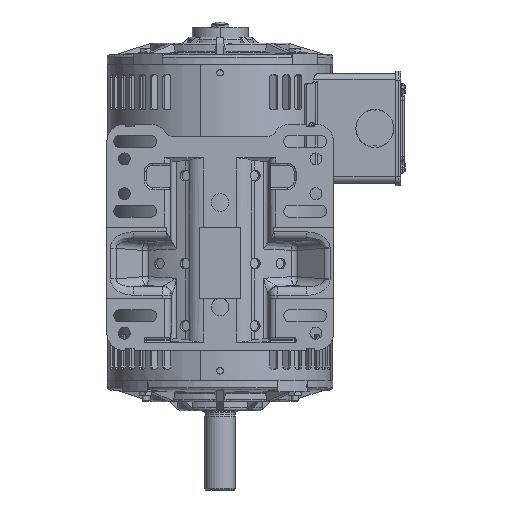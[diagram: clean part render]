
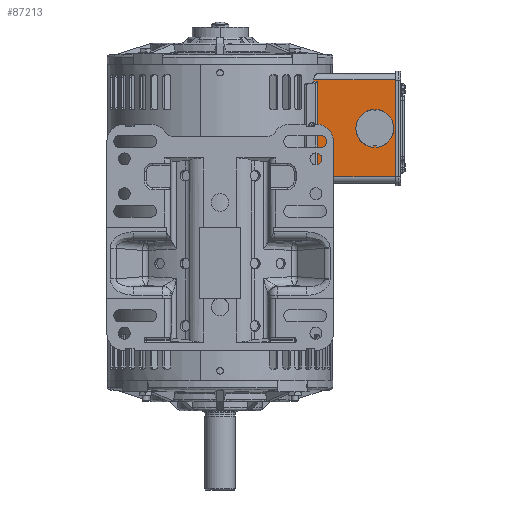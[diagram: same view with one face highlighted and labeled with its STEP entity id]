
A CAD part, front view. The second image highlights one B-rep face of the part: STEP entity #87213.
In plain terms, the highlighted planar face has unit normal (0, -1, 0).
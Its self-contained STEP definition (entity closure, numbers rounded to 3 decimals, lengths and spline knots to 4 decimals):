
#573 = DIRECTION ( 'NONE',  ( -1., 0., 0. ) ) ;
#6473 = DIRECTION ( 'NONE',  ( 1., 0., 0. ) ) ;
#7174 = DIRECTION ( 'NONE',  ( -1., 0., 0. ) ) ;
#7978 = LINE ( 'NONE', #81049, #121654 ) ;
#11714 = EDGE_CURVE ( 'NONE', #93742, #33471, #92559, .T. ) ;
#11836 = ORIENTED_EDGE ( 'NONE', *, *, #131923, .F. ) ;
#13805 = AXIS2_PLACEMENT_3D ( 'NONE', #83075, #115701, #82623 ) ;
#14630 = CARTESIAN_POINT ( 'NONE',  ( 4.485, -1.81, -3.5491 ) ) ;
#15869 = CARTESIAN_POINT ( 'NONE',  ( 5.14, -1.81, -1.616 ) ) ;
#16417 = CARTESIAN_POINT ( 'NONE',  ( 5.14, -1.81, -4.396 ) ) ;
#17798 = VERTEX_POINT ( 'NONE', #100142 ) ;
#18067 = EDGE_CURVE ( 'NONE', #119778, #69886, #31111, .T. ) ;
#18404 = DIRECTION ( 'NONE',  ( 0., 0., 1. ) ) ;
#18821 = ORIENTED_EDGE ( 'NONE', *, *, #77111, .F. ) ;
#20923 = ORIENTED_EDGE ( 'NONE', *, *, #33170, .F. ) ;
#22382 = EDGE_CURVE ( 'NONE', #17798, #58075, #127439, .T. ) ;
#23404 = EDGE_CURVE ( 'NONE', #97867, #31205, #45283, .T. ) ;
#24353 = ORIENTED_EDGE ( 'NONE', *, *, #89715, .T. ) ;
#25523 = DIRECTION ( 'NONE',  ( -1., 0., 0. ) ) ;
#26969 = EDGE_CURVE ( 'NONE', #105899, #73711, #100025, .T. ) ;
#27349 = DIRECTION ( 'NONE',  ( -1., 0., 0. ) ) ;
#29717 = DIRECTION ( 'NONE',  ( 0., 0., -1. ) ) ;
#30034 = DIRECTION ( 'NONE',  ( 0., 0., 1. ) ) ;
#31111 = LINE ( 'NONE', #83308, #94675 ) ;
#31205 = VERTEX_POINT ( 'NONE', #98119 ) ;
#33044 = DIRECTION ( 'NONE',  ( 1., 0., 0. ) ) ;
#33170 = EDGE_CURVE ( 'NONE', #105899, #108353, #83100, .T. ) ;
#33374 = FACE_BOUND ( 'NONE', #131243, .T. ) ;
#33471 = VERTEX_POINT ( 'NONE', #64756 ) ;
#34923 = VECTOR ( 'NONE', #30034, 39.3701 ) ;
#35608 = DIRECTION ( 'NONE',  ( 0., 0., -1. ) ) ;
#35818 = DIRECTION ( 'NONE',  ( 0., 1., 0. ) ) ;
#36912 = EDGE_CURVE ( 'NONE', #115188, #93742, #45736, .T. ) ;
#37375 = ORIENTED_EDGE ( 'NONE', *, *, #124301, .T. ) ;
#38446 = AXIS2_PLACEMENT_3D ( 'NONE', #49711, #38511, #27349 ) ;
#38511 = DIRECTION ( 'NONE',  ( 0., -1., 0. ) ) ;
#39106 = CIRCLE ( 'NONE', #13805, 0.545 ) ;
#41652 = CARTESIAN_POINT ( 'NONE',  ( 2.7915, -1.81, -4.306 ) ) ;
#41735 = LINE ( 'NONE', #89719, #101993 ) ;
#42559 = DIRECTION ( 'NONE',  ( 0., 0., -1. ) ) ;
#43913 = CARTESIAN_POINT ( 'NONE',  ( 5.14, -1.81, -1.616 ) ) ;
#44793 = VECTOR ( 'NONE', #29717, 39.3701 ) ;
#45283 = CIRCLE ( 'NONE', #38446, 0.03 ) ;
#45508 = AXIS2_PLACEMENT_3D ( 'NONE', #123836, #135051, #71071 ) ;
#45736 = LINE ( 'NONE', #43913, #137696 ) ;
#46330 = EDGE_CURVE ( 'NONE', #33471, #85030, #41735, .T. ) ;
#47303 = DIRECTION ( 'NONE',  ( 0., 0., 1. ) ) ;
#47659 = CARTESIAN_POINT ( 'NONE',  ( 4.41, -1.81, -2.4618 ) ) ;
#49485 = VERTEX_POINT ( 'NONE', #14630 ) ;
#49711 = CARTESIAN_POINT ( 'NONE',  ( 4.44, -1.81, -2.461 ) ) ;
#50581 = CARTESIAN_POINT ( 'NONE',  ( 5.14, -1.81, -4.576 ) ) ;
#51654 = CARTESIAN_POINT ( 'NONE',  ( 4.395, -1.81, -3.5491 ) ) ;
#53150 = CARTESIAN_POINT ( 'NONE',  ( 2.7915, -1.81, -4.366 ) ) ;
#56328 = DIRECTION ( 'NONE',  ( 0., -1., 0. ) ) ;
#58075 = VERTEX_POINT ( 'NONE', #112781 ) ;
#60133 = PLANE ( 'NONE',  #79148 ) ;
#62229 = ORIENTED_EDGE ( 'NONE', *, *, #129316, .T. ) ;
#62345 = ORIENTED_EDGE ( 'NONE', *, *, #18067, .T. ) ;
#64756 = CARTESIAN_POINT ( 'NONE',  ( 2.6873, -1.81, -1.646 ) ) ;
#65998 = LINE ( 'NONE', #111234, #84394 ) ;
#68589 = FACE_OUTER_BOUND ( 'NONE', #81796, .T. ) ;
#68796 = DIRECTION ( 'NONE',  ( -1., 0., 0. ) ) ;
#69886 = VERTEX_POINT ( 'NONE', #93235 ) ;
#69959 = LINE ( 'NONE', #51654, #44793 ) ;
#71071 = DIRECTION ( 'NONE',  ( -1., 0., 0. ) ) ;
#73711 = VERTEX_POINT ( 'NONE', #16417 ) ;
#74868 = CARTESIAN_POINT ( 'NONE',  ( 2.6873, -1.81, -1.616 ) ) ;
#77111 = EDGE_CURVE ( 'NONE', #49485, #31205, #39106, .T. ) ;
#77410 = CARTESIAN_POINT ( 'NONE',  ( 4.44, -1.81, -3.006 ) ) ;
#77849 = ORIENTED_EDGE ( 'NONE', *, *, #23404, .T. ) ;
#78206 = CARTESIAN_POINT ( 'NONE',  ( 2.6873, -1.81, -4.576 ) ) ;
#79148 = AXIS2_PLACEMENT_3D ( 'NONE', #111036, #35818, #6473 ) ;
#79899 = DIRECTION ( 'NONE',  ( 1., 0., 0. ) ) ;
#81049 = CARTESIAN_POINT ( 'NONE',  ( 4.485, -1.81, -3.5491 ) ) ;
#81778 = LINE ( 'NONE', #50581, #34923 ) ;
#81796 = EDGE_LOOP ( 'NONE', ( #84330, #95908, #116603, #62229, #20923, #129503, #106826, #90160 ) ) ;
#82474 = CARTESIAN_POINT ( 'NONE',  ( 4.485, -1.81, -3.496 ) ) ;
#82623 = DIRECTION ( 'NONE',  ( -1., 0., 0. ) ) ;
#82962 = EDGE_CURVE ( 'NONE', #73711, #115188, #81778, .T. ) ;
#83075 = CARTESIAN_POINT ( 'NONE',  ( 4.44, -1.81, -3.006 ) ) ;
#83100 = LINE ( 'NONE', #78206, #104727 ) ;
#83308 = CARTESIAN_POINT ( 'NONE',  ( 4.485, -1.81, -3.496 ) ) ;
#83638 = CARTESIAN_POINT ( 'NONE',  ( 5.14, -1.81, -4.396 ) ) ;
#84330 = ORIENTED_EDGE ( 'NONE', *, *, #11714, .T. ) ;
#84394 = VECTOR ( 'NONE', #68796, 39.3701 ) ;
#85030 = VERTEX_POINT ( 'NONE', #91569 ) ;
#87213 = ADVANCED_FACE ( 'NONE', ( #33374, #68589 ), #60133, .F. ) ;
#89715 = EDGE_CURVE ( 'NONE', #49485, #119778, #7978, .T. ) ;
#89719 = CARTESIAN_POINT ( 'NONE',  ( 2.7915, -1.81, -1.646 ) ) ;
#90160 = ORIENTED_EDGE ( 'NONE', *, *, #36912, .T. ) ;
#91569 = CARTESIAN_POINT ( 'NONE',  ( 2.7915, -1.81, -1.646 ) ) ;
#92559 = LINE ( 'NONE', #122531, #97494 ) ;
#93094 = LINE ( 'NONE', #41652, #119901 ) ;
#93235 = CARTESIAN_POINT ( 'NONE',  ( 4.395, -1.81, -3.496 ) ) ;
#93742 = VERTEX_POINT ( 'NONE', #74868 ) ;
#94010 = CIRCLE ( 'NONE', #45508, 0.545 ) ;
#94675 = VECTOR ( 'NONE', #7174, 39.3701 ) ;
#95156 = CARTESIAN_POINT ( 'NONE',  ( 2.6873, -1.81, -4.366 ) ) ;
#95908 = ORIENTED_EDGE ( 'NONE', *, *, #46330, .T. ) ;
#96561 = ORIENTED_EDGE ( 'NONE', *, *, #22382, .F. ) ;
#97494 = VECTOR ( 'NONE', #35608, 39.3701 ) ;
#97867 = VERTEX_POINT ( 'NONE', #47659 ) ;
#98119 = CARTESIAN_POINT ( 'NONE',  ( 4.47, -1.81, -2.4618 ) ) ;
#99115 = EDGE_CURVE ( 'NONE', #85030, #111328, #93094, .T. ) ;
#100025 = LINE ( 'NONE', #83638, #135181 ) ;
#100142 = CARTESIAN_POINT ( 'NONE',  ( 3.895, -1.81, -3.006 ) ) ;
#101993 = VECTOR ( 'NONE', #79899, 39.3701 ) ;
#104727 = VECTOR ( 'NONE', #47303, 39.3701 ) ;
#105899 = VERTEX_POINT ( 'NONE', #131891 ) ;
#106826 = ORIENTED_EDGE ( 'NONE', *, *, #82962, .T. ) ;
#108353 = VERTEX_POINT ( 'NONE', #95156 ) ;
#110908 = AXIS2_PLACEMENT_3D ( 'NONE', #77410, #56328, #25523 ) ;
#111036 = CARTESIAN_POINT ( 'NONE',  ( 5.14, -1.81, -4.576 ) ) ;
#111234 = CARTESIAN_POINT ( 'NONE',  ( 5.14, -1.81, -4.366 ) ) ;
#111328 = VERTEX_POINT ( 'NONE', #53150 ) ;
#112781 = CARTESIAN_POINT ( 'NONE',  ( 4.395, -1.81, -3.5491 ) ) ;
#115188 = VERTEX_POINT ( 'NONE', #15869 ) ;
#115701 = DIRECTION ( 'NONE',  ( 0., -1., 0. ) ) ;
#116603 = ORIENTED_EDGE ( 'NONE', *, *, #99115, .T. ) ;
#119778 = VERTEX_POINT ( 'NONE', #82474 ) ;
#119901 = VECTOR ( 'NONE', #42559, 39.3701 ) ;
#121654 = VECTOR ( 'NONE', #18404, 39.3701 ) ;
#122531 = CARTESIAN_POINT ( 'NONE',  ( 2.6873, -1.81, -4.576 ) ) ;
#123836 = CARTESIAN_POINT ( 'NONE',  ( 4.44, -1.81, -3.006 ) ) ;
#124301 = EDGE_CURVE ( 'NONE', #69886, #58075, #69959, .T. ) ;
#127439 = CIRCLE ( 'NONE', #110908, 0.545 ) ;
#129316 = EDGE_CURVE ( 'NONE', #111328, #108353, #65998, .T. ) ;
#129503 = ORIENTED_EDGE ( 'NONE', *, *, #26969, .T. ) ;
#131243 = EDGE_LOOP ( 'NONE', ( #11836, #77849, #18821, #24353, #62345, #37375, #96561 ) ) ;
#131891 = CARTESIAN_POINT ( 'NONE',  ( 2.6873, -1.81, -4.396 ) ) ;
#131923 = EDGE_CURVE ( 'NONE', #97867, #17798, #94010, .T. ) ;
#135051 = DIRECTION ( 'NONE',  ( 0., -1., 0. ) ) ;
#135181 = VECTOR ( 'NONE', #33044, 39.3701 ) ;
#137696 = VECTOR ( 'NONE', #573, 39.3701 ) ;
